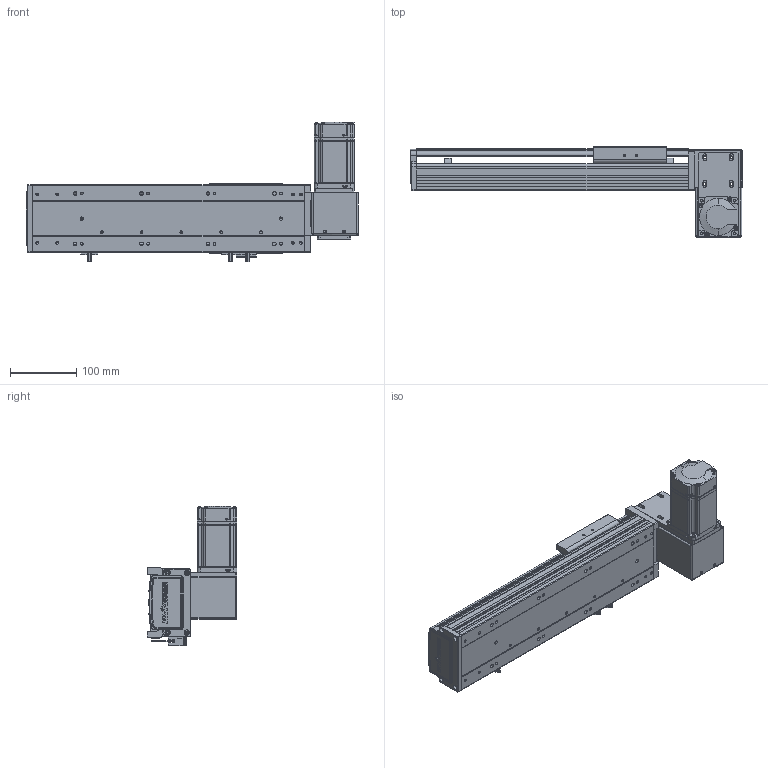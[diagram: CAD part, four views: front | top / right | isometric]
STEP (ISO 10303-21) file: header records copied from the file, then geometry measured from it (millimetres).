
FILE_DESCRIPTION (( 'STEP AP203' ), '1' );
FILE_NAME ('RY100-T-300-DR.SLDASM_200.step', '2024-04-25T03:21:50', ( '盈信电脑' ), ( '东莞市道滘镇水果街19号' ), 'SwSTEP 2.0', 'SolidWorks 2016', '' );
FILE_SCHEMA (( 'CONFIG_CONTROL_DESIGN' ));
Length unit declared in the file: millimetre
Products named in the file (16): 覜茼ん672; RY100俋离覜茼え; RY100綴裔啣; RY100-T粣創揤踡裔; 滅袉蝶18-10; RY80-T肮祭謫狟殏俋欶; RY100-T肮祭謫臏賑輸; 侂狟200W萇儂; RY100-T-300-DR.SLDASM_200; RY100-T翋肮祭謫裔啣2; 1; RY100-T-300-RK倰第奻裔_200; RY100-T左右折电机安装板; RY100-T翋肮祭謫裔啣; RY100-T肮祭謫翋盓傅釱; RY100-T-300-RK倰第菁釱_200
Assembly tree (19 placements, depth 3):
  RY100-T-300-DR.SLDASM_200
    RY100-T-300-RK倰第菁釱_200
    RY100-T-300-RK倰第奻裔_200
    RY100-T肮祭謫臏賑輸
    RY100綴裔啣
    覜茼ん672  x3
    RY100俋离覜茼え
    RY100-T肮祭謫翋盓傅釱
    RY100-T左右折电机安装板
    侂狟200W萇儂
      1
    RY100-T粣創揤踡裔
    滅袉蝶18-10  x2
    RY100-T翋肮祭謫裔啣2  x2
    RY100-T翋肮祭謫裔啣
    RY80-T肮祭謫狟殏俋欶
Bounding box: 500 x 135.5 x 209.7 mm (x, y, z)
Volume: 1365938.7 mm3; surface area: 524894.8 mm2
Topology: 18 solids, 18 shells, 2125 faces, 5866 edges, 3806 vertices
Faces by surface type: plane 1201, cylinder 721, cone 125, bspline 78
Entity records: 67065 total; most frequent: CARTESIAN_POINT 15898, ORIENTED_EDGE 10468, DIRECTION 9982, EDGE_CURVE 5234, LINE 3480, VECTOR 3480, VERTEX_POINT 3442, AXIS2_PLACEMENT_3D 3251
